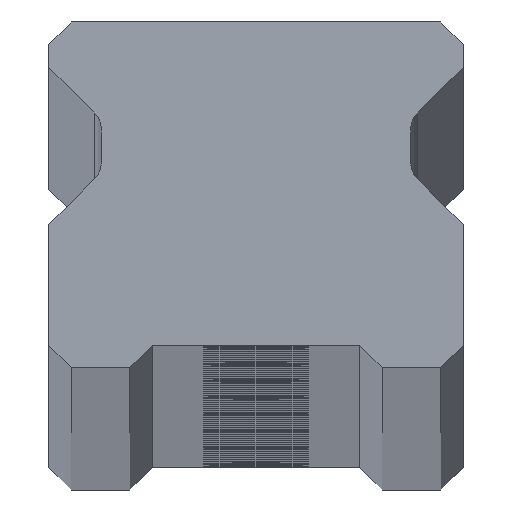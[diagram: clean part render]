
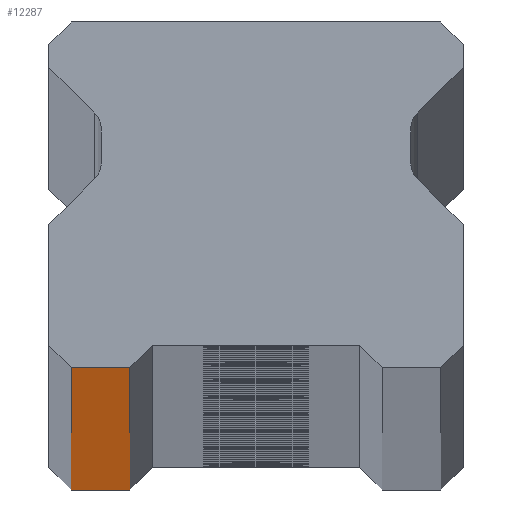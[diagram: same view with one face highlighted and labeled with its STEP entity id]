
A CAD part, top view. The second image highlights one B-rep face of the part: STEP entity #12287.
In plain terms, the highlighted planar face has unit normal (0, -1, 0).
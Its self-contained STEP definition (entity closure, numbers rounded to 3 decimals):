
#265 = VERTEX_POINT ( 'NONE', #11022 ) ;
#320 = LINE ( 'NONE', #949, #1411 ) ;
#777 = EDGE_CURVE ( 'NONE', #265, #1717, #320, .T. ) ;
#879 = VECTOR ( 'NONE', #2828, 1000. ) ;
#949 = CARTESIAN_POINT ( 'NONE',  ( 11.5, 0., 1940. ) ) ;
#1146 = ORIENTED_EDGE ( 'NONE', *, *, #2899, .T. ) ;
#1411 = VECTOR ( 'NONE', #2030, 1000. ) ;
#1436 = FACE_OUTER_BOUND ( 'NONE', #12474, .T. ) ;
#1717 = VERTEX_POINT ( 'NONE', #8122 ) ;
#2030 = DIRECTION ( 'NONE',  ( 1., 0., 0. ) ) ;
#2070 = PLANE ( 'NONE',  #4229 ) ;
#2759 = LINE ( 'NONE', #7153, #11387 ) ;
#2828 = DIRECTION ( 'NONE',  ( 0., 0., 1. ) ) ;
#2899 = EDGE_CURVE ( 'NONE', #9895, #1717, #7992, .T. ) ;
#3030 = EDGE_CURVE ( 'NONE', #265, #6316, #7381, .T. ) ;
#3065 = DIRECTION ( 'NONE',  ( 0., 1., 0. ) ) ;
#3098 = ORIENTED_EDGE ( 'NONE', *, *, #3030, .T. ) ;
#3887 = CARTESIAN_POINT ( 'NONE',  ( -10.25, 0., 1940. ) ) ;
#4229 = AXIS2_PLACEMENT_3D ( 'NONE', #7934, #3065, #6913 ) ;
#4754 = EDGE_CURVE ( 'NONE', #6316, #9895, #2759, .T. ) ;
#5820 = ORIENTED_EDGE ( 'NONE', *, *, #777, .F. ) ;
#6029 = DIRECTION ( 'NONE',  ( 0., 0., -1. ) ) ;
#6045 = DIRECTION ( 'NONE',  ( 1., 0., 0. ) ) ;
#6316 = VERTEX_POINT ( 'NONE', #6386 ) ;
#6386 = CARTESIAN_POINT ( 'NONE',  ( -10.25, 0., -1940. ) ) ;
#6913 = DIRECTION ( 'NONE',  ( -1., 0., 0. ) ) ;
#7153 = CARTESIAN_POINT ( 'NONE',  ( 11.5, 0., -1940. ) ) ;
#7381 = LINE ( 'NONE', #3887, #11670 ) ;
#7934 = CARTESIAN_POINT ( 'NONE',  ( 11.5, 0., 1940. ) ) ;
#7992 = LINE ( 'NONE', #8666, #879 ) ;
#8122 = CARTESIAN_POINT ( 'NONE',  ( -7., 0., 1940. ) ) ;
#8666 = CARTESIAN_POINT ( 'NONE',  ( -7., 0., -1940. ) ) ;
#9895 = VERTEX_POINT ( 'NONE', #11748 ) ;
#10892 = ORIENTED_EDGE ( 'NONE', *, *, #4754, .T. ) ;
#11022 = CARTESIAN_POINT ( 'NONE',  ( -10.25, 0., 1940. ) ) ;
#11387 = VECTOR ( 'NONE', #6045, 1000. ) ;
#11670 = VECTOR ( 'NONE', #6029, 1000. ) ;
#11748 = CARTESIAN_POINT ( 'NONE',  ( -7., 0., -1940. ) ) ;
#12287 = ADVANCED_FACE ( 'NONE', ( #1436 ), #2070, .F. ) ;
#12474 = EDGE_LOOP ( 'NONE', ( #10892, #1146, #5820, #3098 ) ) ;
